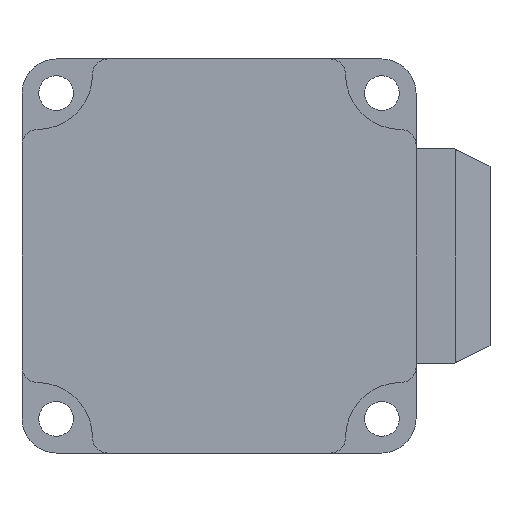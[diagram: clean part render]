
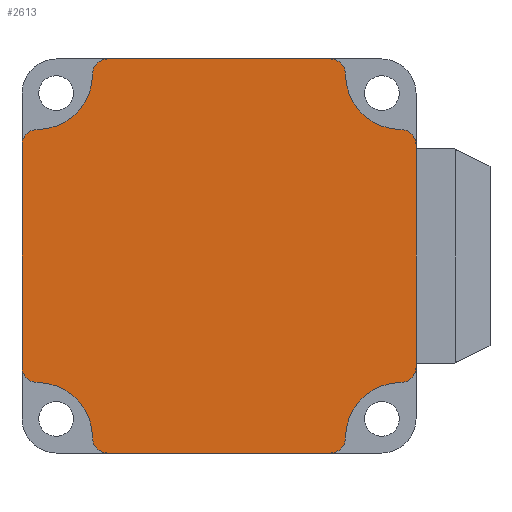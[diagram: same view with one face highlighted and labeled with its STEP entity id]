
A CAD part, front view. The second image highlights one B-rep face of the part: STEP entity #2613.
In plain terms, the highlighted planar face has unit normal (0, -1, 0).
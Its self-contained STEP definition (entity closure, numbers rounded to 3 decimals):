
#4 = EDGE_CURVE ( 'NONE', #1702, #6, #555, .T. ) ;
#6 = VERTEX_POINT ( 'NONE', #2573 ) ;
#84 = VERTEX_POINT ( 'NONE', #1792 ) ;
#98 = EDGE_CURVE ( 'NONE', #2687, #1555, #1530, .T. ) ;
#112 = ORIENTED_EDGE ( 'NONE', *, *, #2103, .F. ) ;
#151 = CARTESIAN_POINT ( 'NONE',  ( 44.6, -122., -2.2 ) ) ;
#154 = ORIENTED_EDGE ( 'NONE', *, *, #1860, .F. ) ;
#183 = CARTESIAN_POINT ( 'NONE',  ( 0., -122., -44.6 ) ) ;
#194 = ORIENTED_EDGE ( 'NONE', *, *, #2170, .F. ) ;
#207 = ORIENTED_EDGE ( 'NONE', *, *, #1161, .F. ) ;
#212 = AXIS2_PLACEMENT_3D ( 'NONE', #2009, #760, #2226 ) ;
#218 = VERTEX_POINT ( 'NONE', #2450 ) ;
#240 = DIRECTION ( 'NONE',  ( 0., 0., -1. ) ) ;
#281 = DIRECTION ( 'NONE',  ( 0., 1., 0. ) ) ;
#284 = ORIENTED_EDGE ( 'NONE', *, *, #98, .F. ) ;
#293 = CARTESIAN_POINT ( 'NONE',  ( 10.2, -122., -2.2 ) ) ;
#331 = AXIS2_PLACEMENT_3D ( 'NONE', #769, #598, #590 ) ;
#359 = CARTESIAN_POINT ( 'NONE',  ( 12.4, -122., -2.2 ) ) ;
#371 = DIRECTION ( 'NONE',  ( 0., 0., 1. ) ) ;
#411 = ORIENTED_EDGE ( 'NONE', *, *, #537, .F. ) ;
#413 = DIRECTION ( 'NONE',  ( 0., 0., -1. ) ) ;
#443 = EDGE_CURVE ( 'NONE', #2375, #218, #1452, .T. ) ;
#461 = CARTESIAN_POINT ( 'NONE',  ( 54.8, -122., -12.4 ) ) ;
#488 = VERTEX_POINT ( 'NONE', #293 ) ;
#522 = ORIENTED_EDGE ( 'NONE', *, *, #4, .F. ) ;
#526 = CARTESIAN_POINT ( 'NONE',  ( 54.8, -122., -54.8 ) ) ;
#537 = EDGE_CURVE ( 'NONE', #1853, #1431, #1252, .T. ) ;
#550 = EDGE_CURVE ( 'NONE', #84, #1836, #1748, .T. ) ;
#551 = CARTESIAN_POINT ( 'NONE',  ( 54.8, -122., -10.2 ) ) ;
#555 = LINE ( 'NONE', #683, #2688 ) ;
#575 = AXIS2_PLACEMENT_3D ( 'NONE', #461, #1924, #676 ) ;
#590 = DIRECTION ( 'NONE',  ( 0., 0., -1. ) ) ;
#598 = DIRECTION ( 'NONE',  ( 0., 1., 0. ) ) ;
#651 = DIRECTION ( 'NONE',  ( 0., 0., -1. ) ) ;
#663 = EDGE_CURVE ( 'NONE', #1705, #2375, #2030, .T. ) ;
#676 = DIRECTION ( 'NONE',  ( 0., 0., -1. ) ) ;
#683 = CARTESIAN_POINT ( 'NONE',  ( 0., -122., 0. ) ) ;
#745 = CIRCLE ( 'NONE', #331, 2.2 ) ;
#747 = CIRCLE ( 'NONE', #212, 2.2 ) ;
#760 = DIRECTION ( 'NONE',  ( 0., 1., 0. ) ) ;
#769 = CARTESIAN_POINT ( 'NONE',  ( 44.6, -122., -54.8 ) ) ;
#783 = AXIS2_PLACEMENT_3D ( 'NONE', #1059, #2686, #413 ) ;
#798 = AXIS2_PLACEMENT_3D ( 'NONE', #2661, #2299, #2309 ) ;
#811 = ORIENTED_EDGE ( 'NONE', *, *, #443, .F. ) ;
#855 = EDGE_CURVE ( 'NONE', #1794, #488, #2663, .T. ) ;
#870 = CARTESIAN_POINT ( 'NONE',  ( 0., -122., 0. ) ) ;
#931 = DIRECTION ( 'NONE',  ( 1., 0., 0. ) ) ;
#1004 = CIRCLE ( 'NONE', #575, 2.2 ) ;
#1026 = AXIS2_PLACEMENT_3D ( 'NONE', #151, #1633, #371 ) ;
#1037 = CIRCLE ( 'NONE', #783, 2.2 ) ;
#1059 = CARTESIAN_POINT ( 'NONE',  ( 2.2, -122., -44.6 ) ) ;
#1060 = DIRECTION ( 'NONE',  ( 0., 0., 1. ) ) ;
#1074 = ORIENTED_EDGE ( 'NONE', *, *, #2655, .F. ) ;
#1077 = DIRECTION ( 'NONE',  ( 0., 0., 1. ) ) ;
#1104 = CARTESIAN_POINT ( 'NONE',  ( 46.8, -122., -54.8 ) ) ;
#1110 = DIRECTION ( 'NONE',  ( 0., -1., 0. ) ) ;
#1127 = DIRECTION ( 'NONE',  ( 0., 0., 1. ) ) ;
#1149 = CARTESIAN_POINT ( 'NONE',  ( 2.2, -122., -2.2 ) ) ;
#1161 = EDGE_CURVE ( 'NONE', #1836, #1177, #1037, .T. ) ;
#1169 = CARTESIAN_POINT ( 'NONE',  ( 57., -122., -12.4 ) ) ;
#1176 = DIRECTION ( 'NONE',  ( 0., 1., 0. ) ) ;
#1177 = VERTEX_POINT ( 'NONE', #183 ) ;
#1224 = ORIENTED_EDGE ( 'NONE', *, *, #550, .F. ) ;
#1231 = CARTESIAN_POINT ( 'NONE',  ( 54.8, -122., -44.6 ) ) ;
#1244 = CARTESIAN_POINT ( 'NONE',  ( 2.2, -122., -54.8 ) ) ;
#1252 = CIRCLE ( 'NONE', #798, 8. ) ;
#1263 = CIRCLE ( 'NONE', #1026, 2.2 ) ;
#1278 = ORIENTED_EDGE ( 'NONE', *, *, #1496, .F. ) ;
#1336 = CARTESIAN_POINT ( 'NONE',  ( 0., -122., -12.4 ) ) ;
#1357 = ORIENTED_EDGE ( 'NONE', *, *, #663, .F. ) ;
#1358 = AXIS2_PLACEMENT_3D ( 'NONE', #359, #1841, #240 ) ;
#1360 = LINE ( 'NONE', #870, #2389 ) ;
#1368 = CARTESIAN_POINT ( 'NONE',  ( 12.4, -122., 0. ) ) ;
#1372 = CARTESIAN_POINT ( 'NONE',  ( 2.2, -122., -10.2 ) ) ;
#1431 = VERTEX_POINT ( 'NONE', #551 ) ;
#1448 = CARTESIAN_POINT ( 'NONE',  ( 57., -122., 0. ) ) ;
#1452 = CIRCLE ( 'NONE', #1455, 2.2 ) ;
#1455 = AXIS2_PLACEMENT_3D ( 'NONE', #1231, #1176, #1127 ) ;
#1457 = DIRECTION ( 'NONE',  ( 0., -1., 0. ) ) ;
#1458 = CIRCLE ( 'NONE', #1463, 8. ) ;
#1463 = AXIS2_PLACEMENT_3D ( 'NONE', #526, #2200, #1996 ) ;
#1475 = VECTOR ( 'NONE', #651, 1000. ) ;
#1496 = EDGE_CURVE ( 'NONE', #1919, #2687, #745, .T. ) ;
#1530 = LINE ( 'NONE', #2145, #2557 ) ;
#1531 = AXIS2_PLACEMENT_3D ( 'NONE', #1936, #1110, #2552 ) ;
#1544 = CARTESIAN_POINT ( 'NONE',  ( 12.4, -122., -54.8 ) ) ;
#1555 = VERTEX_POINT ( 'NONE', #1603 ) ;
#1597 = DIRECTION ( 'NONE',  ( -1., 0., 0. ) ) ;
#1603 = CARTESIAN_POINT ( 'NONE',  ( 12.4, -122., -57. ) ) ;
#1627 = EDGE_CURVE ( 'NONE', #218, #1919, #1458, .T. ) ;
#1633 = DIRECTION ( 'NONE',  ( 0., 1., 0. ) ) ;
#1636 = AXIS2_PLACEMENT_3D ( 'NONE', #1244, #1457, #1060 ) ;
#1656 = CIRCLE ( 'NONE', #1358, 2.2 ) ;
#1702 = VERTEX_POINT ( 'NONE', #1368 ) ;
#1705 = VERTEX_POINT ( 'NONE', #1169 ) ;
#1748 = CIRCLE ( 'NONE', #1636, 8. ) ;
#1772 = DIRECTION ( 'NONE',  ( 0., 0., 1. ) ) ;
#1780 = CARTESIAN_POINT ( 'NONE',  ( 44.6, -122., -57. ) ) ;
#1792 = CARTESIAN_POINT ( 'NONE',  ( 10.2, -122., -54.8 ) ) ;
#1794 = VERTEX_POINT ( 'NONE', #1372 ) ;
#1827 = CIRCLE ( 'NONE', #2242, 2.2 ) ;
#1836 = VERTEX_POINT ( 'NONE', #2578 ) ;
#1841 = DIRECTION ( 'NONE',  ( 0., 1., 0. ) ) ;
#1853 = VERTEX_POINT ( 'NONE', #2111 ) ;
#1860 = EDGE_CURVE ( 'NONE', #1431, #1705, #1004, .T. ) ;
#1919 = VERTEX_POINT ( 'NONE', #1104 ) ;
#1924 = DIRECTION ( 'NONE',  ( 0., 1., 0. ) ) ;
#1936 = CARTESIAN_POINT ( 'NONE',  ( 0., -122., 0. ) ) ;
#1975 = DIRECTION ( 'NONE',  ( 0., 0., 1. ) ) ;
#1996 = DIRECTION ( 'NONE',  ( 0., 0., 1. ) ) ;
#2009 = CARTESIAN_POINT ( 'NONE',  ( 2.2, -122., -12.4 ) ) ;
#2030 = LINE ( 'NONE', #1448, #1475 ) ;
#2103 = EDGE_CURVE ( 'NONE', #2664, #1794, #747, .T. ) ;
#2111 = CARTESIAN_POINT ( 'NONE',  ( 46.8, -122., -2.2 ) ) ;
#2126 = AXIS2_PLACEMENT_3D ( 'NONE', #1149, #2155, #1975 ) ;
#2145 = CARTESIAN_POINT ( 'NONE',  ( 0., -122., -57. ) ) ;
#2155 = DIRECTION ( 'NONE',  ( 0., -1., 0. ) ) ;
#2167 = EDGE_LOOP ( 'NONE', ( #1074, #284, #1278, #2633, #811, #1357, #154, #411, #2609, #522, #194, #2453, #112, #2284, #207, #1224 ) ) ;
#2170 = EDGE_CURVE ( 'NONE', #488, #1702, #1656, .T. ) ;
#2200 = DIRECTION ( 'NONE',  ( 0., -1., 0. ) ) ;
#2226 = DIRECTION ( 'NONE',  ( 0., 0., 1. ) ) ;
#2242 = AXIS2_PLACEMENT_3D ( 'NONE', #1544, #281, #1772 ) ;
#2264 = CARTESIAN_POINT ( 'NONE',  ( 57., -122., -44.6 ) ) ;
#2275 = FACE_OUTER_BOUND ( 'NONE', #2167, .T. ) ;
#2284 = ORIENTED_EDGE ( 'NONE', *, *, #2530, .F. ) ;
#2299 = DIRECTION ( 'NONE',  ( 0., -1., 0. ) ) ;
#2309 = DIRECTION ( 'NONE',  ( 0., 0., -1. ) ) ;
#2346 = EDGE_CURVE ( 'NONE', #6, #1853, #1263, .T. ) ;
#2349 = PLANE ( 'NONE',  #1531 ) ;
#2375 = VERTEX_POINT ( 'NONE', #2264 ) ;
#2389 = VECTOR ( 'NONE', #1077, 1000. ) ;
#2450 = CARTESIAN_POINT ( 'NONE',  ( 54.8, -122., -46.8 ) ) ;
#2453 = ORIENTED_EDGE ( 'NONE', *, *, #855, .F. ) ;
#2530 = EDGE_CURVE ( 'NONE', #1177, #2664, #1360, .T. ) ;
#2552 = DIRECTION ( 'NONE',  ( 0., 0., -1. ) ) ;
#2557 = VECTOR ( 'NONE', #1597, 1000. ) ;
#2573 = CARTESIAN_POINT ( 'NONE',  ( 44.6, -122., 0. ) ) ;
#2578 = CARTESIAN_POINT ( 'NONE',  ( 2.2, -122., -46.8 ) ) ;
#2609 = ORIENTED_EDGE ( 'NONE', *, *, #2346, .F. ) ;
#2613 = ADVANCED_FACE ( 'NONE', ( #2275 ), #2349, .T. ) ;
#2633 = ORIENTED_EDGE ( 'NONE', *, *, #1627, .F. ) ;
#2655 = EDGE_CURVE ( 'NONE', #1555, #84, #1827, .T. ) ;
#2661 = CARTESIAN_POINT ( 'NONE',  ( 54.8, -122., -2.2 ) ) ;
#2663 = CIRCLE ( 'NONE', #2126, 8. ) ;
#2664 = VERTEX_POINT ( 'NONE', #1336 ) ;
#2686 = DIRECTION ( 'NONE',  ( 0., 1., 0. ) ) ;
#2687 = VERTEX_POINT ( 'NONE', #1780 ) ;
#2688 = VECTOR ( 'NONE', #931, 1000. ) ;
